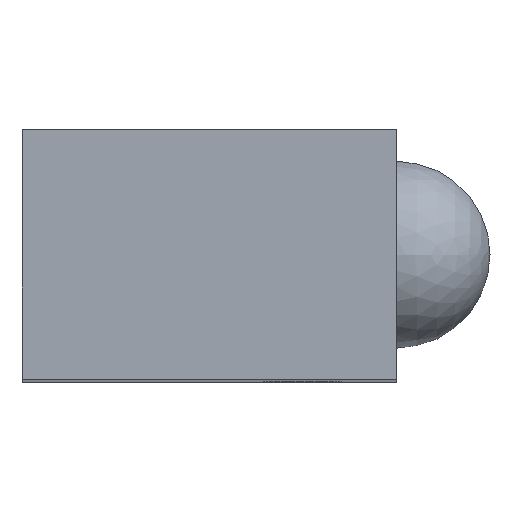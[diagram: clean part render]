
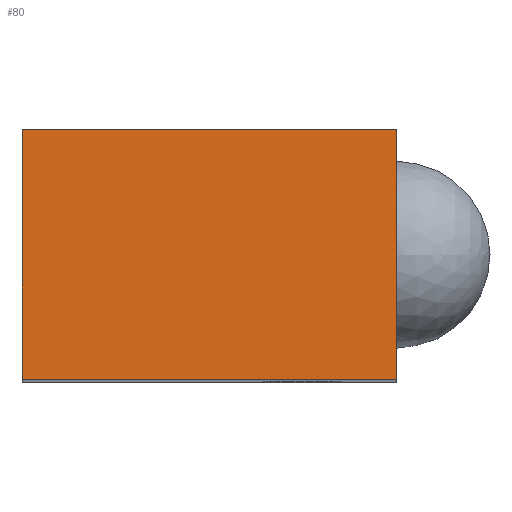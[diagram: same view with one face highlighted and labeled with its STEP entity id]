
A CAD part, top view. The second image highlights one B-rep face of the part: STEP entity #80.
In plain terms, the highlighted planar face has unit normal (0, 0, 1).
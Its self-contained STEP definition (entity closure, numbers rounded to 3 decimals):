
#80 = ADVANCED_FACE( '', ( #103 ), #104, .F. );
#103 = FACE_OUTER_BOUND( '', #143, .T. );
#104 = PLANE( '', #144 );
#143 = EDGE_LOOP( '', ( #198, #199, #200, #201 ) );
#144 = AXIS2_PLACEMENT_3D( '', #202, #203, #204 );
#198 = ORIENTED_EDGE( '', *, *, #261, .T. );
#199 = ORIENTED_EDGE( '', *, *, #272, .F. );
#200 = ORIENTED_EDGE( '', *, *, #273, .F. );
#201 = ORIENTED_EDGE( '', *, *, #270, .T. );
#202 = CARTESIAN_POINT( '', ( -12., -4., 29. ) );
#203 = DIRECTION( '', ( 0., 0., -1. ) );
#204 = DIRECTION( '', ( -1., 0., 0. ) );
#261 = EDGE_CURVE( '', #286, #284, #287, .T. );
#270 = EDGE_CURVE( '', #302, #286, #303, .T. );
#272 = EDGE_CURVE( '', #305, #284, #306, .T. );
#273 = EDGE_CURVE( '', #302, #305, #307, .T. );
#284 = VERTEX_POINT( '', #325 );
#286 = VERTEX_POINT( '', #328 );
#287 = LINE( '', #329, #330 );
#302 = VERTEX_POINT( '', #349 );
#303 = LINE( '', #350, #351 );
#305 = VERTEX_POINT( '', #354 );
#306 = LINE( '', #355, #356 );
#307 = LINE( '', #357, #358 );
#325 = CARTESIAN_POINT( '', ( 0., 4., 29. ) );
#328 = CARTESIAN_POINT( '', ( 0., -4., 29. ) );
#329 = CARTESIAN_POINT( '', ( 0., -4., 29. ) );
#330 = VECTOR( '', #375, 1000. );
#349 = CARTESIAN_POINT( '', ( -12., -4., 29. ) );
#350 = CARTESIAN_POINT( '', ( -12., -4., 29. ) );
#351 = VECTOR( '', #392, 1000. );
#354 = CARTESIAN_POINT( '', ( -12., 4., 29. ) );
#355 = CARTESIAN_POINT( '', ( -12., 4., 29. ) );
#356 = VECTOR( '', #394, 1000. );
#357 = CARTESIAN_POINT( '', ( -12., -4., 29. ) );
#358 = VECTOR( '', #395, 1000. );
#375 = DIRECTION( '', ( 0., 1., 0. ) );
#392 = DIRECTION( '', ( 1., 0., 0. ) );
#394 = DIRECTION( '', ( 1., 0., 0. ) );
#395 = DIRECTION( '', ( 0., 1., 0. ) );
